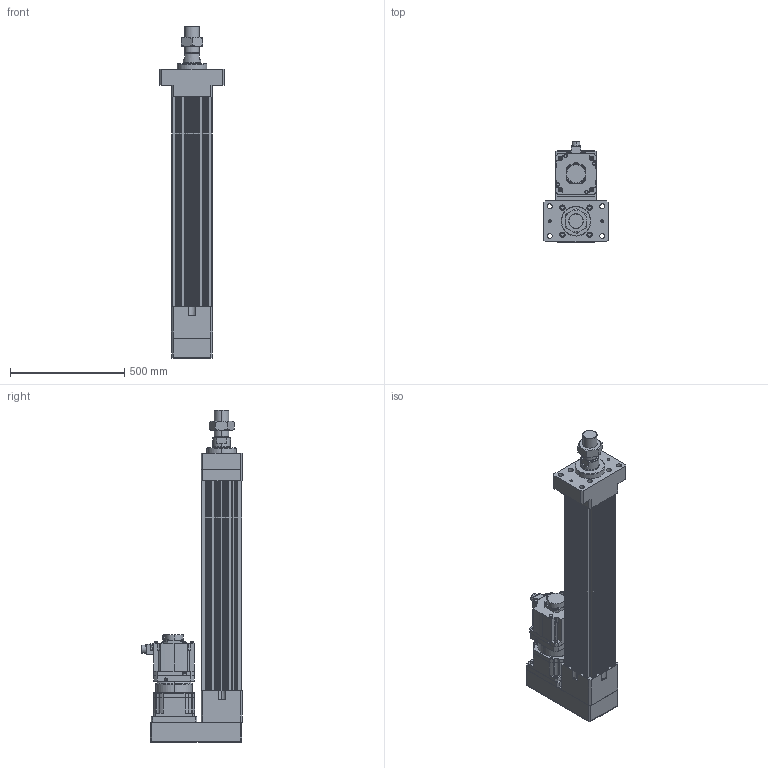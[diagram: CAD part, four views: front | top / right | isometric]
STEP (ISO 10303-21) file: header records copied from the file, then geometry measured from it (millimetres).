
FILE_DESCRIPTION (( 'STEP AP203' ), '1' );
FILE_NAME ('HES180HS-P600-W050G00-M-FMA.STEP', '2023-02-01T08:22:35', ( 'tms' ), ( '' ), 'SwSTEP 2.0', 'SolidWorks 2013', '' );
FILE_SCHEMA (( 'CONFIG_CONTROL_DESIGN' ));
Length unit declared in the file: millimetre
Products named in the file (9): AB1801; P1301600001; M64X2.0P; P0403600401; HES180-P600-G180-FMA; HG-SR502; HES180 ROD M ST600; HES180HS-P600-W050G00-M-FMA; AB180-003[HG-SR702B]
Assembly tree (8 placements, depth 3):
  HES180HS-P600-W050G00-M-FMA
    HES180-P600-G180-FMA
    HES180 ROD M ST600
    M64X2.0P
    AB180-003[HG-SR702B]
      AB1801
      P1301600001
      P0403600401
    HG-SR502
Bounding box: 280 x 438.85 x 1452 mm (x, y, z)
Volume: 31924056.3 mm3; surface area: 2788350.6 mm2
Topology: 4 solids, 19 shells, 1431 faces, 3715 edges, 2410 vertices
Faces by surface type: cylinder 663, plane 555, cone 146, bspline 63, torus 4
Entity records: 52578 total; most frequent: CARTESIAN_POINT 15982, DIRECTION 7693, ORIENTED_EDGE 7330, EDGE_CURVE 3689, AXIS2_PLACEMENT_3D 2901, VERTEX_POINT 2410, LINE 1891, VECTOR 1891
